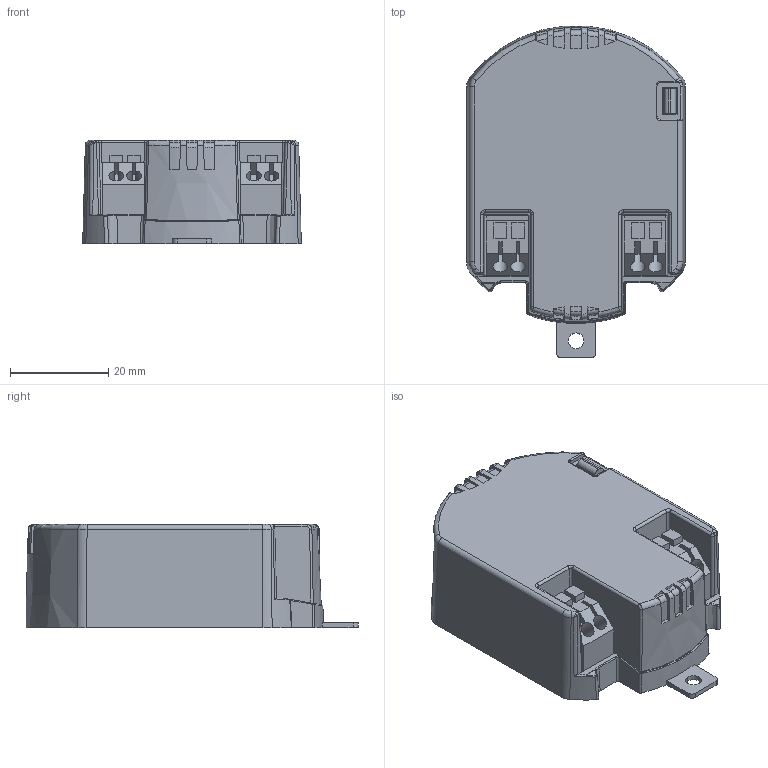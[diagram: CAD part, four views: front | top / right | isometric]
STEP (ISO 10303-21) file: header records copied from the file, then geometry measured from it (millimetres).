
FILE_DESCRIPTION((''),'2;1');
FILE_NAME('15013562Z_DMEC_67-7X44-5X21_22A','2019-10-21T14:55:00',('juergen.hrach'),(''),'CREO PARAMETRIC BY PTC INC, 2019164','CREO PARAMETRIC BY PTC INC, 2019164','');
FILE_SCHEMA(('CONFIG_CONTROL_DESIGN'));
Length unit declared in the file: millimetre
Products named in the file (1): 15013562Z_DMEC_67-7X44-5X21_22A
Bounding box: 44.5 x 67.59 x 21 mm (x, y, z)
Volume: 14411.5 mm3; surface area: 23641.3 mm2
Topology: 1 solids, 2 shells, 523 faces, 1496 edges, 966 vertices
Faces by surface type: plane 276, cylinder 110, cone 66, torus 35, bspline 31, sphere 5
Entity records: 21417 total; most frequent: CARTESIAN_POINT 8203, ORIENTED_EDGE 2988, DIRECTION 2487, EDGE_CURVE 1494, VERTEX_POINT 966, AXIS2_PLACEMENT_3D 845, VECTOR 797, LINE 797
